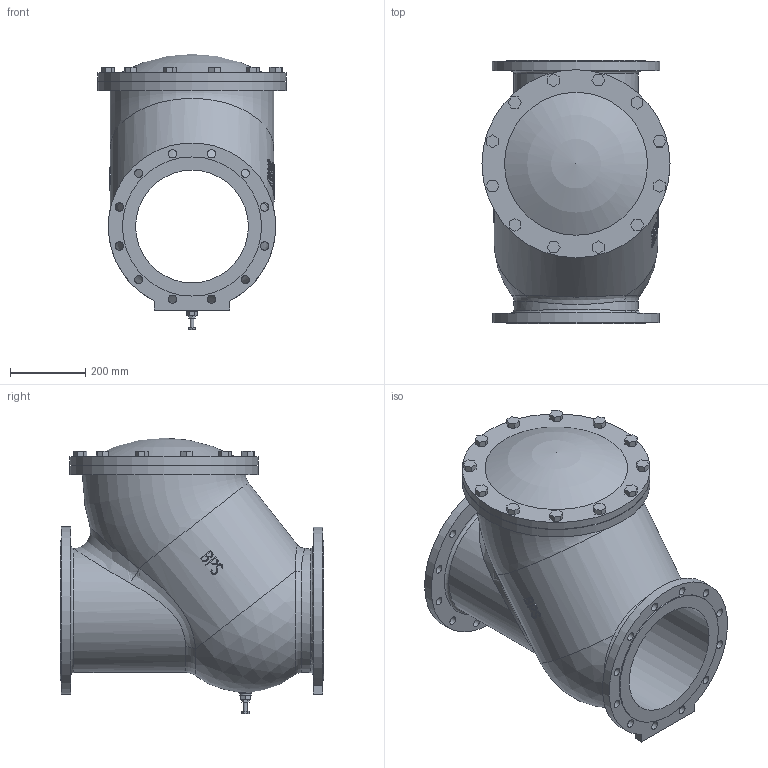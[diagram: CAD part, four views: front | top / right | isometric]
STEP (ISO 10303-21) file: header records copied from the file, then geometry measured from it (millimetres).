
FILE_DESCRIPTION( ( 'Unknown' ), '1' );
FILE_NAME( 'J:/Muud/ROOTSI BPS 3D vidinad/Kuuliga tagasiloogiklapid/STEP formaat/BPS 6538300 ball check valve DN300.stp', 'Unknown', ( 'Unknown' ), ( 'Unknown' ), 'PSStep 10.1', 'Unknown', ' ' );
FILE_SCHEMA( ( 'AUTOMOTIVE_DESIGN { 1 0 10303 214 1 1 1 1 }' ) );
Length unit declared in the file: millimetre
Products named in the file (2): 1; 2
Bounding box: 500 x 700 x 733.51 mm (x, y, z)
Volume: 74074761.4 mm3; surface area: 2780666.2 mm2
Topology: 2 solids, 2 shells, 374 faces, 946 edges, 635 vertices
Faces by surface type: plane 216, cylinder 88, bspline 63, torus 5, sphere 2
Full cylindrical faces by diameter (mm): 10 x1, 17.294 x1, 22 x48, 30 x1, 300 x1, 330 x1, 370 x2, 445 x1, 500 x2
Entity records: 32812 total; most frequent: CARTESIAN_POINT 22008, ORIENTED_EDGE 1662, DIRECTION 1210, EDGE_CURVE 831, VERTEX_POINT 592, EDGE_LOOP 579, AXIS2_PLACEMENT_3D 459, FACE_OUTER_BOUND 443
